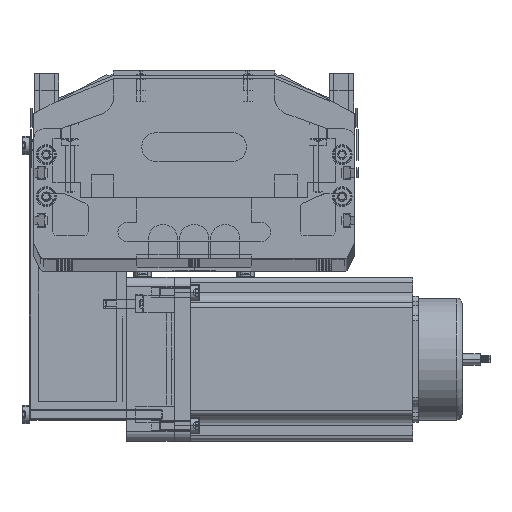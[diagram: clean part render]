
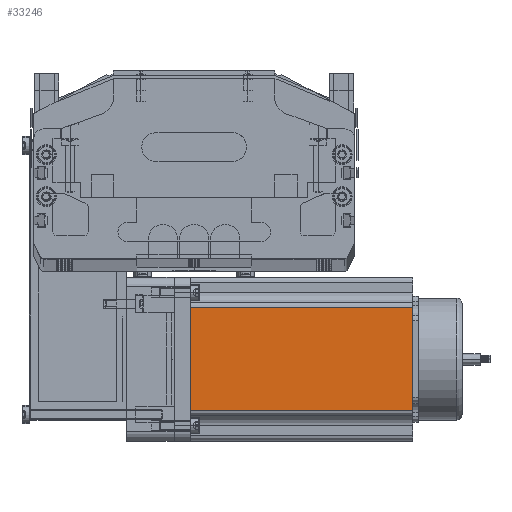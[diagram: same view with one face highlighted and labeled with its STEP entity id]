
A CAD part, top view. The second image highlights one B-rep face of the part: STEP entity #33246.
In plain terms, the highlighted planar face has unit normal (0, 0, 1) as drawn and (0, -1, 0) by its records, which use the part's own axes.
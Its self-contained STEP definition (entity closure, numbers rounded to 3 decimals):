
#1890 = VECTOR ( 'NONE', #2182, 1000. ) ;
#1992 = LINE ( 'NONE', #1999, #1890 ) ;
#1999 = CARTESIAN_POINT ( 'NONE',  ( 0., 0., 0. ) ) ;
#2182 = DIRECTION ( 'NONE',  ( 1., 0., 0. ) ) ;
#2916 = CARTESIAN_POINT ( 'NONE',  ( 69.74, 0., 116.5 ) ) ;
#2919 = DIRECTION ( 'NONE',  ( 0., 0., 1. ) ) ;
#2920 = VECTOR ( 'NONE', #2919, 1000. ) ;
#2921 = CARTESIAN_POINT ( 'NONE',  ( 69.74, 0., 116.5 ) ) ;
#2922 = LINE ( 'NONE', #2921, #2920 ) ;
#3040 = PLANE ( 'NONE',  #3106 ) ;
#3082 = FACE_OUTER_BOUND ( 'NONE', #33303, .T. ) ;
#3092 = DIRECTION ( 'NONE',  ( 0., 0., 1. ) ) ;
#3095 = DIRECTION ( 'NONE',  ( 0., 1., 0. ) ) ;
#3096 = CARTESIAN_POINT ( 'NONE',  ( 0., 0., 116.5 ) ) ;
#3106 = AXIS2_PLACEMENT_3D ( 'NONE', #3096, #3095, #3092 ) ;
#3118 = CARTESIAN_POINT ( 'NONE',  ( 16.16, 0., 0. ) ) ;
#3154 = LINE ( 'NONE', #3192, #3190 ) ;
#3162 = DIRECTION ( 'NONE',  ( 0., 0., -1. ) ) ;
#3163 = VECTOR ( 'NONE', #3162, 1000. ) ;
#3189 = DIRECTION ( 'NONE',  ( 1., 0., 0. ) ) ;
#3190 = VECTOR ( 'NONE', #3189, 1000. ) ;
#3192 = CARTESIAN_POINT ( 'NONE',  ( 0., 0., 116.5 ) ) ;
#3198 = CARTESIAN_POINT ( 'NONE',  ( 16.16, 0., 116.5 ) ) ;
#3200 = LINE ( 'NONE', #3198, #3163 ) ;
#3207 = CARTESIAN_POINT ( 'NONE',  ( 16.16, 0., 116.5 ) ) ;
#3736 = CARTESIAN_POINT ( 'NONE',  ( 69.74, 0., 0. ) ) ;
#33231 = ORIENTED_EDGE ( 'NONE', *, *, #33248, .T. ) ;
#33238 = VERTEX_POINT ( 'NONE', #3118 ) ;
#33243 = EDGE_CURVE ( 'NONE', #33299, #33245, #2922, .T. ) ;
#33245 = VERTEX_POINT ( 'NONE', #2916 ) ;
#33246 = ADVANCED_FACE ( 'NONE', ( #3082 ), #3040, .F. ) ;
#33247 = ORIENTED_EDGE ( 'NONE', *, *, #33243, .T. ) ;
#33248 = EDGE_CURVE ( 'NONE', #33238, #33299, #1992, .T. ) ;
#33249 = ORIENTED_EDGE ( 'NONE', *, *, #33250, .F. ) ;
#33250 = EDGE_CURVE ( 'NONE', #33251, #33245, #3154, .T. ) ;
#33251 = VERTEX_POINT ( 'NONE', #3207 ) ;
#33252 = ORIENTED_EDGE ( 'NONE', *, *, #33258, .T. ) ;
#33258 = EDGE_CURVE ( 'NONE', #33251, #33238, #3200, .T. ) ;
#33299 = VERTEX_POINT ( 'NONE', #3736 ) ;
#33303 = EDGE_LOOP ( 'NONE', ( #33231, #33247, #33249, #33252 ) ) ;
